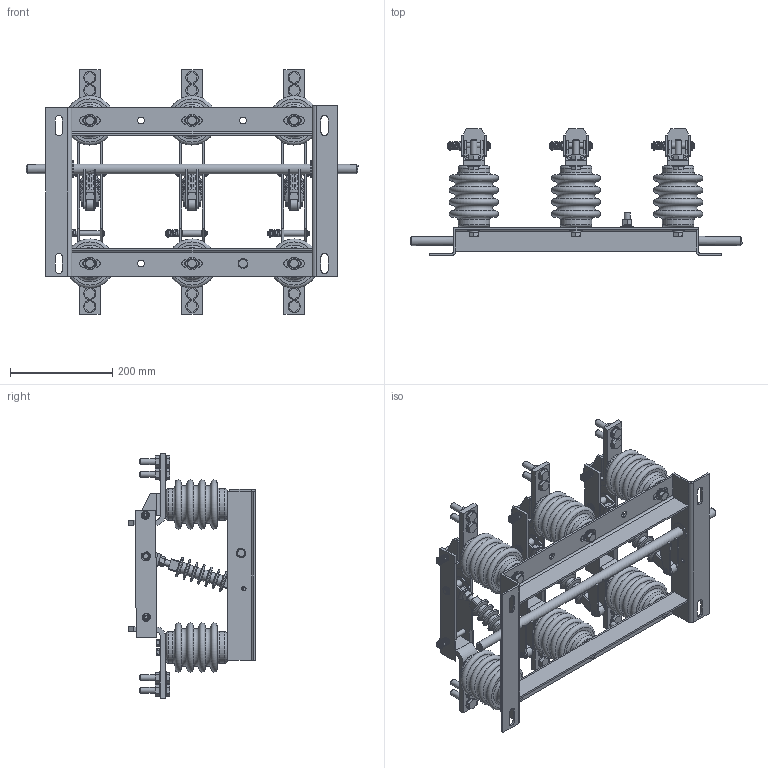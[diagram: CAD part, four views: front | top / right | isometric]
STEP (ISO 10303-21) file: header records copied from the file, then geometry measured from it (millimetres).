
FILE_DESCRIPTION (( 'STEP AP214' ), '1' );
FILE_NAME ('Ðàçúåäèíèòåëü âûñîêîâîëüòíûé ÐÂ-101000-ÓÕË2.STEP', '2023-02-06T06:56:04', ( '' ), ( '' ), 'SwSTEP 2.0', 'SolidWorks 2018', '' );
FILE_SCHEMA (( 'AUTOMOTIVE_DESIGN' ));
Length unit declared in the file: millimetre
Products named in the file (1): Ðàçúåäèíèòåëü âûñîêîâîëüòíûé ÐÂ-101000-ÓÕË2
Bounding box: 650 x 248 x 478 mm (x, y, z)
Volume: 5721114.9 mm3; surface area: 1101129.4 mm2
Topology: 1 solids, 1 shells, 2001 faces, 4977 edges, 3157 vertices
Faces by surface type: plane 1241, cylinder 509, cone 125, torus 114, bspline 12
Full cylindrical faces by diameter (mm): 4 x18, 8 x48, 8.2 x6, 8.3 x8, 8.4 x6, 8.5 x6, 9.06 x6, 9.08 x6, 9.143 x1, 9.456 x2, 9.566 x1, 9.971 x4, 11.176 x4, 11.503 x3, 12 x31, 12.096 x4, 12.45 x2, 13 x10, 13.182 x4, 13.81 x5, 13.826 x5, 16 x6, 18 x2, 19.393 x3, 22 x18, 24 x31, 28 x12, 34 x2, 54 x12, 62 x12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
Entity records: 104799 total; most frequent: CARTESIAN_POINT 38440, DIRECTION 9094, ORIENTED_EDGE 8544, EDGE_CURVE 4272, AXIS2_PLACEMENT_3D 3432, VERTEX_POINT 2969, EDGE_LOOP 2869, FACE_OUTER_BOUND 2389
